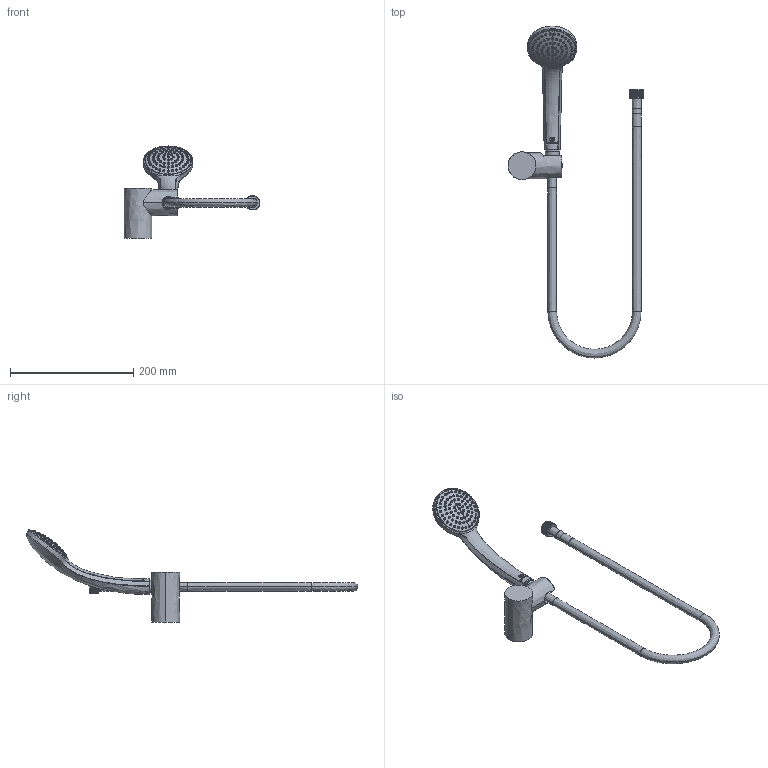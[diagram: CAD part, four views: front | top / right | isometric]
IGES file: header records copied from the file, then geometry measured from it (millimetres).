
Start section: JAMA-IS VERSION  1.0  PTC IGES file: b9506aa_3dpl.igs
Global section: file name: b9506aa_3dpl.igs; native system: Creo Parametric by PTC Inc.; preprocessor: 2018360; author: RibentsovV; organization: Unknown; date: 20210324.154327; units: millimetre
Bounding box: 219.89 x 537.84 x 149.11 mm (x, y, z)
Volume: 492777.8 mm3; surface area: 86304.9 mm2
Topology: 2 solids, 2 shells, 2549 faces, 6685 edges, 4234 vertices
Faces by surface type: bspline 2549
